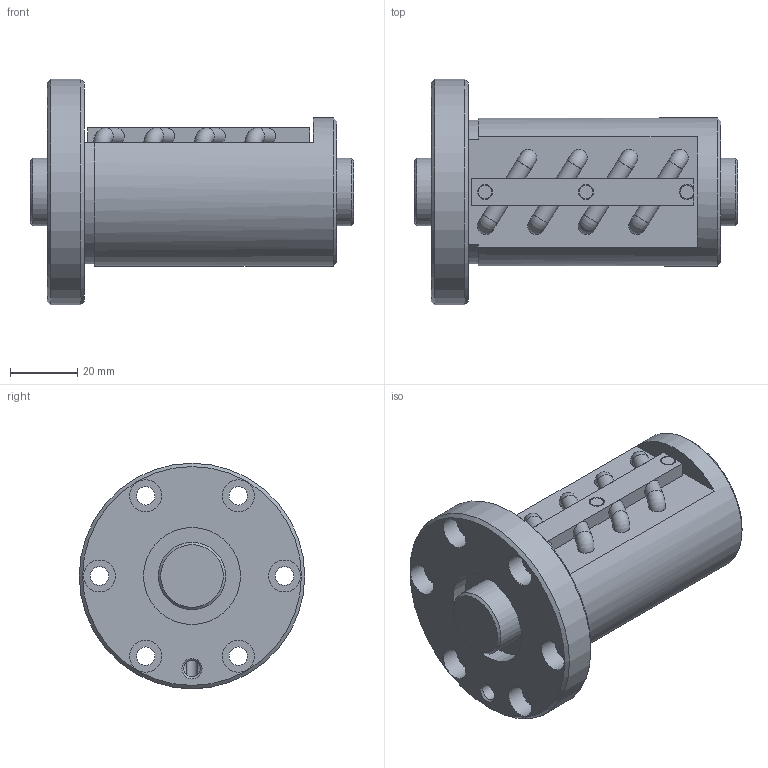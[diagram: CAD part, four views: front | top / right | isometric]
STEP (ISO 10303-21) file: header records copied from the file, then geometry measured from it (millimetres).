
FILE_DESCRIPTION(/* description */ ('STEP AP203'),/* implementation_level */ '2;1');
FILE_NAME(/* name */ 'BIF2005V-10RRG0+96LC0_000',/* time_stamp */ '2024-07-15T08:16:55+02:00',/* author */ ('License CC BY-ND 4.0'),/* organization */ ('CADENAS'),/* preprocessor_version */ 'ST-DEVELOPER v19.3',/* originating_system */ 'PARTsolutions',/* authorisation */ ' ');
FILE_SCHEMA (('CONFIG_CONTROL_DESIGN'));
Length unit declared in the file: millimetre
Products named in the file (3): BIF2005V-10RRG0+96LC0_000; BIF2005V-10RR000 Shaft; BIF2005V-10RR Nut
Assembly tree (2 placements, depth 2):
  BIF2005V-10RRG0+96LC0_000
    BIF2005V-10RR000 Shaft
    BIF2005V-10RR Nut
Bounding box: 96 x 67 x 67 mm (x, y, z)
Volume: 140815.9 mm3; surface area: 34021.5 mm2
Topology: 2 solids, 2 shells, 105 faces, 239 edges, 151 vertices
Faces by surface type: plane 53, cylinder 36, cone 8, torus 8
Full cylindrical faces by diameter (mm): 3.35 x2, 4 x3, 4.5 x2, 4.917 x1, 5.5 x6, 9.5 x6, 20 x2, 28.8 x2, 44 x1, 67 x1
Entity records: 2980 total; most frequent: CARTESIAN_POINT 617, DIRECTION 517, ORIENTED_EDGE 394, AXIS2_PLACEMENT_3D 226, EDGE_CURVE 197, EDGE_LOOP 169, FACE_BOUND 169, VERTEX_POINT 144
